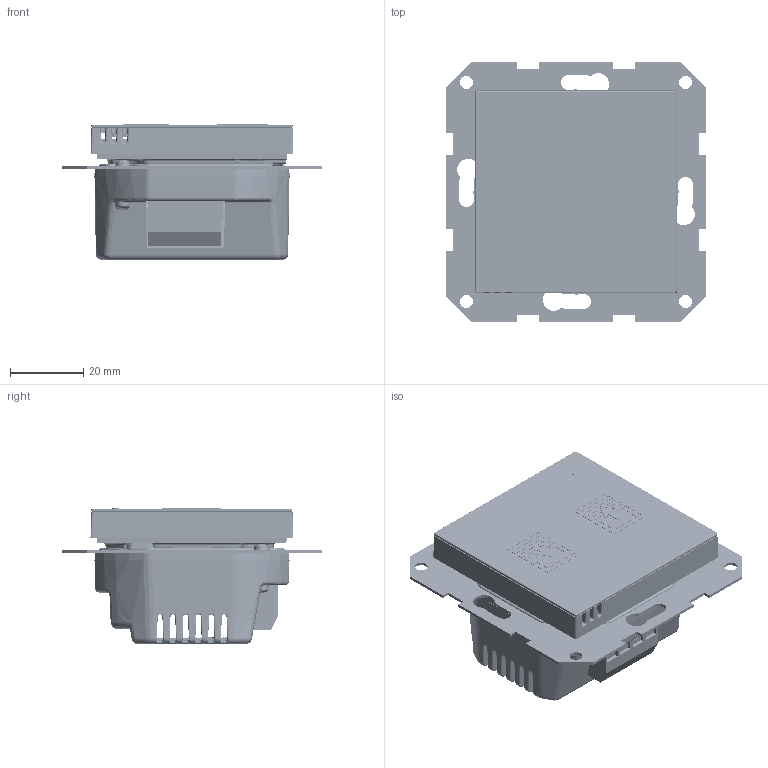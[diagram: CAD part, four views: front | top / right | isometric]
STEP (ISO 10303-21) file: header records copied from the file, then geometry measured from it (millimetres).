
FILE_DESCRIPTION(/* description */ (''),/* implementation_level */ '2;1');
FILE_NAME(/* name */ 'FS-02 BEZ RAMKI.step',/* time_stamp */ '2026-01-25T08:58:51+01:00',/* author */ (''),/* organization */ (''),/* preprocessor_version */ 'ST-DEVELOPER v20.1',/* originating_system */ 'Autodesk Translation Framework v14.24.0.0',/* authorisation */ '');
FILE_SCHEMA (('AUTOMOTIVE_DESIGN { 1 0 10303 214 3 1 1 }'));
Products named in the file (20): wersja 1.3_eink; microUSB_pionowe; Gniazdo rast2; spod1; Plytka1.2; Led_izolator_ramka_01; szkło_eink; Gora2; FS-02 FARMA v1; przełącznik szklany; tył klawisz; OP-1398_C; Blacha1.2; OP-1399_A; łączka 5; DIN ISO 7049 - C-H ST2.2 x 9.5 - C - H; tht prosty L20; tht prosty; PODSWIETLENIE; Komponent25
Assembly tree (38 placements, depth 4):
  wersja 1.3_eink
    tht prosty L20  x8
    tht prosty  x8
    microUSB_pionowe
    Gniazdo rast2
    spod1
    Plytka1.2
    Led_izolator_ramka_01
    szkło_eink
    Gora2
    PODSWIETLENIE  x2
    FS-02 FARMA v1
    przełącznik szklany
      tył klawisz
        OP-1398_C
        łączka 5  x4
        Blacha1.2
        OP-1399_A
        DIN ISO 7049 - C-H ST2.2 x 9.5 - C - H  x2
    Komponent25
Bounding box: 70.8 x 70.8 x 37.02 mm (x, y, z)
Volume: 41522.7 mm3; surface area: 66782.6 mm2
Topology: 42 solids, 42 shells, 7463 faces, 20735 edges, 13496 vertices
Faces by surface type: cone 3369, plane 2453, bspline 789, cylinder 611, torus 198, sphere 43
Full cylindrical faces by diameter (mm): 0.25 x1, 0.601 x1, 0.8 x4, 0.9 x4, 1 x2, 1.7 x2, 2 x1, 2.2 x2, 2.4 x2, 2.702 x4, 3 x4, 3.5 x4
Entity records: 173037 total; most frequent: CARTESIAN_POINT 51918, ORIENTED_EDGE 24572, DIRECTION 23218, EDGE_CURVE 12286, VERTEX_POINT 8979, AXIS2_PLACEMENT_3D 7996, LINE 7226, VECTOR 7226
